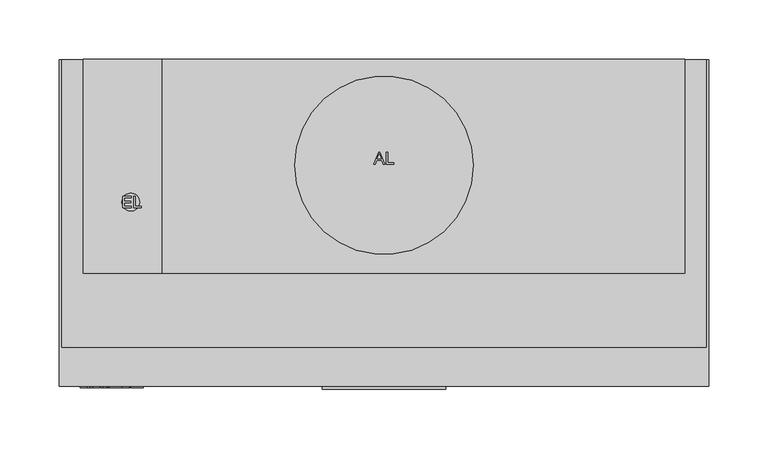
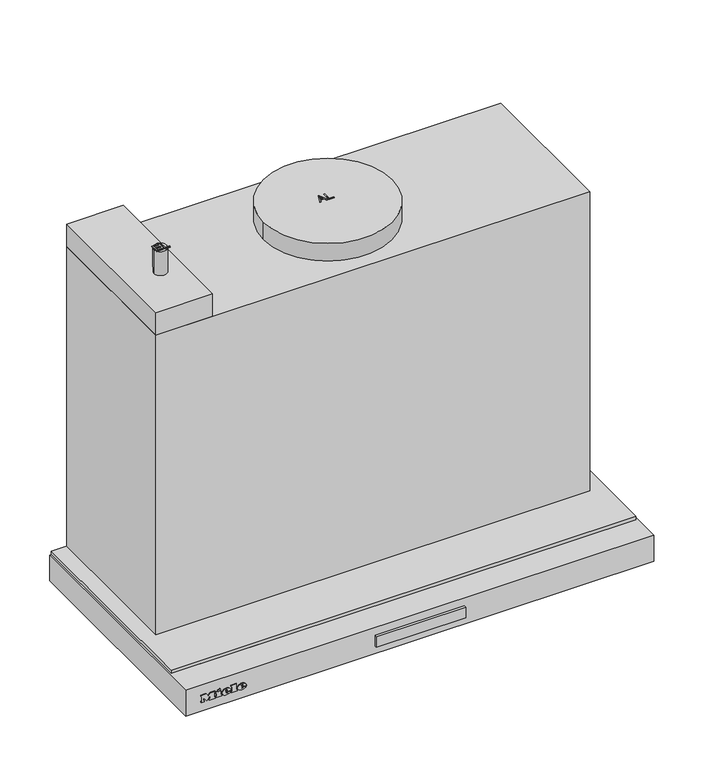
"""IFC4 building model written with IfcOpenShell, lengths in millimetres: proxy geometry, 11862880_CH_DAS2520_EDST : 28S2520S_CH_11862880_DAS2520_EDST."""

from ifc_helpers import new_model, si_unit, point, frame, frame_2d, origin, origin_with_axes, place, context, project, spatial, polyline, circle_curve, ellipse_curve, trimmed, segment, composite_curve, outline, extrude, faceted_brep, source, transform, mapped, element, save
from ifc_brep_helpers import plane_surface, cylinder_surface, revolved_surface, extruded_surface, advanced_brep


def specialty_equipment_bfe63ad1(model_context):
    return source(origin(), model_context, "Body", "SolidModel", [
        extrude(outline(polyline([(52.0, -275.0), (52.0, -277.3978707), (-52.0, -277.3978707), (-52.0, -275.0), (52.0, -275.0)])), frame((0.0, 0.0, -23.0389651), z_axis=(0.0, 0.0, 1.0), x_axis=(1.0, 0.0, 0.0)), (0.0, 0.0, 1.0), 13.3389155),
        advanced_brep(
        [(-208.4590019, -276.0, -18.7681017), (-208.4590019, -276.0, -17.8894017), (-202.6387019, -276.0, -17.8894017), (-212.7655019, -276.0, -17.8894017), (-210.3730019, -276.0, -20.8300017), (-202.7866019, -276.0, -18.7681017), (-205.4140019, -276.0, -18.7681017), (-207.4846019, -276.0, -19.7425017), (-208.4590019, -276.0, -16.7758017), (-208.4590019, -276.0, -15.8275017), (-206.9713019, -276.0, -15.8275017), (-206.9713019, -276.0, -16.7758017), (-208.4590019, -275.0, -18.7681017), (-207.4846019, -275.0, -19.7425017), (-205.4140019, -275.0, -18.7681017), (-202.7866019, -275.0, -18.7681017), (-210.3730019, -275.0, -20.8300017), (-212.7655019, -275.0, -17.8894017), (-202.6387019, -275.0, -17.8894017), (-208.4590019, -275.0, -17.8894017), (-208.4590019, -275.0, -16.7758017), (-206.9713019, -275.0, -16.7758017), (-206.9713019, -275.0, -15.8275017), (-208.4590019, -275.0, -15.8275017)],
        [
            (0, 1),
            (1, 2),
            (2, 3, ellipse_curve(frame((-207.7021019, -276.0, -17.8894017), z_axis=(0.0, -1.0, 0.0), x_axis=(-1.0, 0.0, 0.0)), 5.0634, 4.1847)),
            (3, 4, circle_curve(frame((-209.3985544, -276.0, -17.5936017), z_axis=(0.0, -1.0, 0.0), x_axis=(0.0, 0.0, -1.0)), 3.3799161)),
            (4, 5, circle_curve(frame((-207.8034638, -276.0, -15.2968017), z_axis=(0.0, -1.0, 0.0), x_axis=(0.0, 0.0, -1.0)), 6.1007236)),
            (5, 6),
            (6, 7, circle_curve(frame((-207.0593254, -276.0, -17.9590017), z_axis=(0.0, 1.0, 0.0), x_axis=(0.0, 0.0, -1.0)), 1.8335027)),
            (7, 0, circle_curve(frame((-207.4846019, -276.0, -18.7681017), z_axis=(0.0, 1.0, 0.0), x_axis=(0.0, 0.0, -1.0)), 0.9744)),
            (8, 9),
            (9, 10, circle_curve(frame((-207.7151519, -276.0, -15.8275017), z_axis=(0.0, 1.0, 0.0), x_axis=(0.0, 0.0, -1.0)), 0.74385)),
            (10, 11),
            (11, 8),
            (12, 13, circle_curve(frame((-207.4846019, -275.0, -18.7681017), z_axis=(0.0, -1.0, 0.0), x_axis=(0.0, 0.0, -1.0)), 0.9744)),
            (13, 14, circle_curve(frame((-207.0593254, -275.0, -17.9590017), z_axis=(0.0, -1.0, 0.0), x_axis=(0.0, 0.0, -1.0)), 1.8335027)),
            (14, 15),
            (15, 16, circle_curve(frame((-207.8034638, -275.0, -15.2968017), z_axis=(0.0, 1.0, 0.0), x_axis=(0.0, 0.0, -1.0)), 6.1007236)),
            (16, 17, circle_curve(frame((-209.3985544, -275.0, -17.5936017), z_axis=(0.0, 1.0, 0.0), x_axis=(0.0, 0.0, -1.0)), 3.3799161)),
            (17, 18, ellipse_curve(frame((-207.7021019, -275.0, -17.8894017), z_axis=(0.0, 1.0, 0.0), x_axis=(-1.0, 0.0, 0.0)), 5.0634, 4.1847)),
            (18, 19),
            (19, 12),
            (20, 21),
            (21, 22),
            (22, 23, circle_curve(frame((-207.7151519, -275.0, -15.8275017), z_axis=(0.0, -1.0, 0.0), x_axis=(0.0, 0.0, -1.0)), 0.74385)),
            (23, 20),
            (0, 12),
            (19, 1),
            (18, 2),
            (5, 15),
            (14, 6),
            (17, 3),
            (13, 7),
            (16, 4),
            (8, 20),
            (23, 9),
            (22, 10),
            (21, 11),
        ],
        [
            plane_surface(frame((-208.4590019, -276.0, -17.8894017), z_axis=(0.0, -1.0, 0.0), x_axis=(0.0, 0.0, 1.0))),
            plane_surface(frame((-208.4590019, -275.0, -17.8894017), z_axis=(0.0, 1.0, 0.0), x_axis=(0.0, 0.0, -1.0))),
            plane_surface(frame((-208.4590019, -276.0, -18.7681017), z_axis=(1.0, 0.0, 0.0), x_axis=(0.0, 1.0, 0.0))),
            plane_surface(frame((-208.4590019, -276.0, -17.8894017), z_axis=(0.0, 0.0, -1.0), x_axis=(0.0, 1.0, 0.0))),
            plane_surface(frame((-202.7866019, -276.0, -18.7681017), z_axis=(0.0, 0.0, 1.0), x_axis=(0.0, 1.0, 0.0))),
            extruded_surface(trimmed(ellipse_curve(frame((-207.7021019, -274.0, -17.8894017), z_axis=(0.0, -1.0, 0.0), x_axis=(-1.0, 0.0, 0.0)), 5.0634, 4.1847), [point((-202.6387019, -274.0, -17.8894017))], [point((-212.7655019, -274.0, -17.8894017))], True, "CARTESIAN"), (0.0, -1.0, 0.0), 1.0),
            revolved_surface(polyline([(-207.0593254, -275.0, -19.792504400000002), (-207.0593254, -276.0, -19.792504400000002)]), (-207.0593254, -275.0, -17.9590017), (0.0, 1.0, 0.0)),
            revolved_surface(polyline([(-207.4846019, -275.0, -19.7425017), (-207.4846019, -276.0, -19.7425017)]), (-207.4846019, -275.0, -18.7681017), (0.0, 1.0, 0.0)),
            cylinder_surface(frame((-209.3985544, -275.0, -17.5936017), z_axis=(0.0, -1.0, 0.0), x_axis=(0.0, 0.0, -1.0)), 3.3799161),
            cylinder_surface(frame((-207.8034638, -275.0, -15.2968017), z_axis=(0.0, -1.0, 0.0), x_axis=(0.0, 0.0, -1.0)), 6.1007236),
            plane_surface(frame((-208.4590019, -276.0, -16.7758017), z_axis=(1.0, 0.0, 0.0), x_axis=(0.0, 1.0, 0.0))),
            revolved_surface(polyline([(-207.7151519, -275.0, -16.571351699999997), (-207.7151519, -276.0, -16.571351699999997)]), (-207.7151519, -275.0, -15.8275017), (0.0, 1.0, 0.0)),
            plane_surface(frame((-206.9713019, -276.0, -15.8275017), z_axis=(-1.0, 0.0, 0.0), x_axis=(0.0, 1.0, 0.0))),
            plane_surface(frame((-206.9713019, -276.0, -16.7758017), z_axis=(0.0, 0.0, 1.0), x_axis=(0.0, 1.0, 0.0))),
        ],
        [
            (0, [[1, 2, 3, 4, 5, 6, 7, 8], [9, 10, 11, 12]]),
            (1, [[13, 14, 15, 16, 17, 18, 19, 20], [21, 22, 23, 24]]),
            (2, [[-1, 25, -20, 26]]),
            (3, [[-2, -26, -19, 27]]),
            (4, [[-6, 28, -15, 29]]),
            (5, [[-3, -27, -18, 30]]),
            (6, [[-7, -29, -14, 31]]),
            (7, [[-8, -31, -13, -25]]),
            (8, [[-4, -30, -17, 32]]),
            (9, [[-5, -32, -16, -28]]),
            (10, [[-9, 33, -24, 34]]),
            (11, [[-10, -34, -23, 35]]),
            (12, [[-11, -35, -22, 36]]),
            (13, [[-12, -36, -21, -33]]),
        ],
    ),
        advanced_brep(
        [(-226.6159019, -276.0, -18.7681017), (-226.6159019, -276.0, -17.8894017), (-220.7956019, -276.0, -17.8894017), (-230.9224019, -276.0, -17.8894017), (-228.5299019, -276.0, -20.8300017), (-220.9435019, -276.0, -18.7681017), (-223.5709019, -276.0, -18.7681017), (-225.6415019, -276.0, -19.7425017), (-226.6159019, -276.0, -16.7758017), (-226.6159019, -276.0, -15.8275017), (-225.1282019, -276.0, -15.8275017), (-225.1282019, -276.0, -16.7758017), (-226.6159019, -275.0, -18.7681017), (-225.6415019, -275.0, -19.7425017), (-223.5709019, -275.0, -18.7681017), (-220.9435019, -275.0, -18.7681017), (-228.5299019, -275.0, -20.8300017), (-230.9224019, -275.0, -17.8894017), (-220.7956019, -275.0, -17.8894017), (-226.6159019, -275.0, -17.8894017), (-226.6159019, -275.0, -16.7758017), (-225.1282019, -275.0, -16.7758017), (-225.1282019, -275.0, -15.8275017), (-226.6159019, -275.0, -15.8275017)],
        [
            (0, 1),
            (1, 2),
            (2, 3, ellipse_curve(frame((-225.8590019, -276.0, -17.8894017), z_axis=(0.0, -1.0, 0.0), x_axis=(-1.0, 0.0, 0.0)), 5.0634, 4.1847)),
            (3, 4, circle_curve(frame((-227.5554544, -276.0, -17.5936017), z_axis=(0.0, -1.0, 0.0), x_axis=(0.0, 0.0, -1.0)), 3.3799161)),
            (4, 5, circle_curve(frame((-225.9603638, -276.0, -15.2968017), z_axis=(0.0, -1.0, 0.0), x_axis=(0.0, 0.0, -1.0)), 6.1007236)),
            (5, 6),
            (6, 7, circle_curve(frame((-225.2162254, -276.0, -17.9590017), z_axis=(0.0, 1.0, 0.0), x_axis=(0.0, 0.0, -1.0)), 1.8335027)),
            (7, 0, circle_curve(frame((-225.6415019, -276.0, -18.7681017), z_axis=(0.0, 1.0, 0.0), x_axis=(0.0, 0.0, -1.0)), 0.9744)),
            (8, 9),
            (9, 10, circle_curve(frame((-225.8720519, -276.0, -15.8275017), z_axis=(0.0, 1.0, 0.0), x_axis=(0.0, 0.0, -1.0)), 0.74385)),
            (10, 11),
            (11, 8),
            (12, 13, circle_curve(frame((-225.6415019, -275.0, -18.7681017), z_axis=(0.0, -1.0, 0.0), x_axis=(0.0, 0.0, -1.0)), 0.9744)),
            (13, 14, circle_curve(frame((-225.2162254, -275.0, -17.9590017), z_axis=(0.0, -1.0, 0.0), x_axis=(0.0, 0.0, -1.0)), 1.8335027)),
            (14, 15),
            (15, 16, circle_curve(frame((-225.9603638, -275.0, -15.2968017), z_axis=(0.0, 1.0, 0.0), x_axis=(0.0, 0.0, -1.0)), 6.1007236)),
            (16, 17, circle_curve(frame((-227.5554544, -275.0, -17.5936017), z_axis=(0.0, 1.0, 0.0), x_axis=(0.0, 0.0, -1.0)), 3.3799161)),
            (17, 18, ellipse_curve(frame((-225.8590019, -275.0, -17.8894017), z_axis=(0.0, 1.0, 0.0), x_axis=(-1.0, 0.0, 0.0)), 5.0634, 4.1847)),
            (18, 19),
            (19, 12),
            (20, 21),
            (21, 22),
            (22, 23, circle_curve(frame((-225.8720519, -275.0, -15.8275017), z_axis=(0.0, -1.0, 0.0), x_axis=(0.0, 0.0, -1.0)), 0.74385)),
            (23, 20),
            (0, 12),
            (19, 1),
            (18, 2),
            (5, 15),
            (14, 6),
            (17, 3),
            (13, 7),
            (16, 4),
            (8, 20),
            (23, 9),
            (22, 10),
            (21, 11),
        ],
        [
            plane_surface(frame((-226.6159019, -276.0, -17.8894017), z_axis=(0.0, -1.0, 0.0), x_axis=(0.0, 0.0, 1.0))),
            plane_surface(frame((-226.6159019, -275.0, -17.8894017), z_axis=(0.0, 1.0, 0.0), x_axis=(0.0, 0.0, -1.0))),
            plane_surface(frame((-226.6159019, -276.0, -18.7681017), z_axis=(1.0, 0.0, 0.0), x_axis=(0.0, 1.0, 0.0))),
            plane_surface(frame((-226.6159019, -276.0, -17.8894017), z_axis=(0.0, 0.0, -1.0), x_axis=(0.0, 1.0, 0.0))),
            plane_surface(frame((-220.9435019, -276.0, -18.7681017), z_axis=(0.0, 0.0, 1.0), x_axis=(0.0, 1.0, 0.0))),
            extruded_surface(trimmed(ellipse_curve(frame((-225.8590019, -274.0, -17.8894017), z_axis=(0.0, -1.0, 0.0), x_axis=(-1.0, 0.0, 0.0)), 5.0634, 4.1847), [point((-220.7956019, -274.0, -17.8894017))], [point((-230.9224019, -274.0, -17.8894017))], True, "CARTESIAN"), (0.0, -1.0, 0.0), 1.0),
            revolved_surface(polyline([(-225.2162254, -275.0, -19.792504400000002), (-225.2162254, -276.0, -19.792504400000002)]), (-225.2162254, -275.0, -17.9590017), (0.0, 1.0, 0.0)),
            revolved_surface(polyline([(-225.6415019, -275.0, -19.7425017), (-225.6415019, -276.0, -19.7425017)]), (-225.6415019, -275.0, -18.7681017), (0.0, 1.0, 0.0)),
            cylinder_surface(frame((-227.5554544, -275.0, -17.5936017), z_axis=(0.0, -1.0, 0.0), x_axis=(0.0, 0.0, -1.0)), 3.3799161),
            cylinder_surface(frame((-225.9603638, -275.0, -15.2968017), z_axis=(0.0, -1.0, 0.0), x_axis=(0.0, 0.0, -1.0)), 6.1007236),
            plane_surface(frame((-226.6159019, -276.0, -16.7758017), z_axis=(1.0, 0.0, 0.0), x_axis=(0.0, 1.0, 0.0))),
            revolved_surface(polyline([(-225.8720519, -275.0, -16.571351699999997), (-225.8720519, -276.0, -16.571351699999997)]), (-225.8720519, -275.0, -15.8275017), (0.0, 1.0, 0.0)),
            plane_surface(frame((-225.1282019, -276.0, -15.8275017), z_axis=(-1.0, 0.0, 0.0), x_axis=(0.0, 1.0, 0.0))),
            plane_surface(frame((-225.1282019, -276.0, -16.7758017), z_axis=(0.0, 0.0, 1.0), x_axis=(0.0, 1.0, 0.0))),
        ],
        [
            (0, [[1, 2, 3, 4, 5, 6, 7, 8], [9, 10, 11, 12]]),
            (1, [[13, 14, 15, 16, 17, 18, 19, 20], [21, 22, 23, 24]]),
            (2, [[-1, 25, -20, 26]]),
            (3, [[-2, -26, -19, 27]]),
            (4, [[-6, 28, -15, 29]]),
            (5, [[-3, -27, -18, 30]]),
            (6, [[-7, -29, -14, 31]]),
            (7, [[-8, -31, -13, -25]]),
            (8, [[-4, -30, -17, 32]]),
            (9, [[-5, -32, -16, -28]]),
            (10, [[-9, 33, -24, 34]]),
            (11, [[-10, -34, -23, 35]]),
            (12, [[-11, -35, -22, 36]]),
            (13, [[-12, -36, -21, -33]]),
        ],
    ),
        extrude(outline(polyline([(-12.6433017, -236.1250019), (-14.0527017, -235.4638019), (-12.6781017, -232.5145019), (-11.2687017, -233.1670019), (-12.6433017, -236.1250019)])), frame((0.0, -276.0, 0.0), z_axis=(0.0, 1.0, 0.0), x_axis=(0.0, 0.0, 1.0)), (0.0, 0.0, 1.0), 1.0),
        extrude(outline(polyline([(-14.2441017, -238.2739019), (-15.8014017, -238.2739019), (-15.8014017, -237.2386019), (-19.3684017, -237.2386019), (-19.3684017, -238.2739019), (-20.8300017, -238.2739019), (-20.8300017, -231.4096019), (-19.3684017, -231.4096019), (-19.3684017, -232.4188019), (-14.2441017, -232.4188019), (-14.2441017, -238.2739019)])), frame((0.0, -276.0, 0.0), z_axis=(0.0, 1.0, 0.0), x_axis=(0.0, 0.0, 1.0)), (0.0, 0.0, 1.0), 1.0),
        extrude(outline(polyline([(-13.5481017, -220.3084019), (-13.5481017, -219.2644019), (-19.3684017, -219.2644019), (-19.3684017, -220.3084019), (-20.8300017, -220.3084019), (-20.8300017, -213.2527019), (-19.3684017, -213.2527019), (-19.3684017, -214.3228019), (-12.1300017, -214.3228019), (-12.1300017, -220.3084019), (-13.5481017, -220.3084019)])), frame((0.0, -276.0, 0.0), z_axis=(0.0, 1.0, 0.0), x_axis=(0.0, 0.0, 1.0)), (0.0, 0.0, 1.0), 1.0),
        extrude(outline(polyline([(-13.5481017, -255.6130019), (-13.5481017, -254.5603019), (-19.3684017, -254.5603019), (-19.3684017, -255.6130019), (-20.8300017, -255.6130019), (-20.8300017, -251.7850019), (-19.3684017, -251.7850019), (-19.3684017, -252.8290019), (-15.6719769, -252.8290019), (-20.8300017, -248.9401019), (-15.5772794, -245.0338019), (-19.3684017, -245.0338019), (-19.3684017, -246.1039019), (-20.8300017, -246.1039019), (-20.8300017, -239.1613019), (-19.3684017, -239.1613019), (-19.3684017, -240.2662019), (-13.5481017, -240.2662019), (-13.5481017, -239.1613019), (-12.1300017, -239.1613019), (-12.1300017, -244.4596019), (-15.3925017, -247.0000019), (-12.1300017, -249.5491019), (-12.1300017, -255.6130019), (-13.5481017, -255.6130019)])), frame((0.0, -276.0, 0.0), z_axis=(0.0, 1.0, 0.0), x_axis=(0.0, 0.0, 1.0)), (0.0, 0.0, 1.0), 1.0),
        extrude(outline(polyline([(253.0, -180.0), (-253.0, -180.0), (-253.0, 0.0), (253.0, 0.0), (253.0, -180.0)])), frame((0.0, 0.0, 4.0), z_axis=(0.0, 0.0, 1.0), x_axis=(1.0, 0.0, 0.0)), (0.0, 0.0, 1.0), 369.0),
        extrude(outline(composite_curve([segment(trimmed(circle_curve(frame_2d((0.0, -89.0)), 75.0), [point((-75.0, -89.0))], [point((75.0, -89.0))], False, "CARTESIAN"), True, "CONTINUOUS"), segment(trimmed(circle_curve(frame_2d((0.0, -89.0)), 75.0), [point((75.0, -89.0))], [point((-75.0, -89.0))], False, "CARTESIAN"), True, "CONTINUOUS")], self_intersect=False)), frame((0.0, 0.0, 373.0), z_axis=(0.0, 0.0, 1.0), x_axis=(1.0, 0.0, 0.0)), (0.0, 0.0, 1.0), 22.0),
        extrude(outline(polyline([(-253.0, -180.0), (-253.0, 0.0), (-187.0, 0.0), (-187.0, -180.0), (-253.0, -180.0)])), frame((0.0, 0.0, 373.0), z_axis=(0.0, 0.0, 1.0), x_axis=(1.0, 0.0, 0.0)), (0.0, 0.0, 1.0), 28.0),
        extrude(outline(polyline([(-8.5446725, -87.975609), (-4.5347587, -77.929978), (-3.4654484, -77.929978), (0.5420128, -87.975609), (-0.7848149, -87.975609), (-1.9326067, -84.8363493), (-6.0725055, -84.8363493), (-7.2202973, -87.975609), (-8.5446725, -87.975609)]), holes=[polyline([(-5.6114267, -83.5806455), (-2.391233, -83.5806455), (-3.2986752, -81.110931), (-4.0025561, -79.1856819), (-4.6279555, -80.8951069), (-5.6114267, -83.5806455)])]), frame((0.0, 0.0, 395.0), z_axis=(0.0, 0.0, 1.0), x_axis=(1.0, 0.0, 0.0)), (0.0, 0.0, 1.0), 1.0),
        extrude(outline(polyline([(1.8835558, -87.975609), (1.8835558, -77.929978), (3.1392597, -77.929978), (3.1392597, -86.7199052), (8.1620752, -86.7199052), (8.1620752, -87.975609), (1.8835558, -87.975609)])), frame((0.0, 0.0, 395.0), z_axis=(0.0, 0.0, 1.0), x_axis=(1.0, 0.0, 0.0)), (0.0, 0.0, 1.0), 1.0),
        extrude(outline(polyline([(271.0, 0.0), (271.0, -242.0), (-271.0, -242.0), (-271.0, 0.0), (271.0, 0.0)])), origin_with_axes(), (0.0, 0.0, 1.0), 4.0),
        extrude(outline(polyline([(120.0, -19.25), (120.0, -31.75), (-120.0, -31.75), (-120.0, -19.25), (120.0, -19.25)])), frame((0.0, 0.0, -23.0), z_axis=(0.0, 0.0, 1.0), x_axis=(1.0, 0.0, 0.0)), (0.0, 0.0, 1.0), 1.785426),
        extrude(outline(polyline([(156.0813184, -268.0), (156.0813184, -246.0), (224.0, -246.0), (224.0, -268.0), (156.0813184, -268.0)])), frame((0.0, 0.0, -33.3019181), z_axis=(0.0, 0.0, 1.0), x_axis=(1.0, 0.0, 0.0)), (0.0, 0.0, 1.0), 1.3019181),
        extrude(outline(polyline([(-224.0, -268.0), (-224.0, -246.0), (-156.0, -246.0), (-156.0, -268.0), (-224.0, -268.0)])), frame((0.0, 0.0, -33.3019181), z_axis=(0.0, 0.0, 1.0), x_axis=(1.0, 0.0, 0.0)), (0.0, 0.0, 1.0), 1.3019181),
        extrude(outline(composite_curve([segment(trimmed(circle_curve(frame_2d((-213.0, -120.0)), 7.5), [point((-205.5, -120.0))], [point((-220.5, -120.0))], False, "CARTESIAN"), True, "CONTINUOUS"), segment(trimmed(circle_curve(frame_2d((-213.0, -120.0)), 7.5), [point((-220.5, -120.0))], [point((-205.5, -120.0))], False, "CARTESIAN"), True, "CONTINUOUS")], self_intersect=False)), frame((0.0, 0.0, 401.0), z_axis=(0.0, 0.0, 1.0), x_axis=(1.0, 0.0, 0.0)), (0.0, 0.0, 1.0), 30.0),
        extrude(outline(polyline([(-210.640443, -124.9184735), (-210.640443, -114.8728425), (-209.3847391, -114.8728425), (-209.3847391, -123.6627696), (-204.3619236, -123.6627696), (-204.3619236, -124.9184735), (-210.640443, -124.9184735)])), frame((0.0, 0.0, 431.0), z_axis=(0.0, 0.0, 1.0), x_axis=(1.0, 0.0, 0.0)), (0.0, 0.0, 1.0), 1.0),
        extrude(outline(polyline([(-219.9012591, -124.9184735), (-219.9012591, -114.8728425), (-212.6809618, -114.8728425), (-212.6809618, -116.1285464), (-218.6455552, -116.1285464), (-218.6455552, -119.1108431), (-212.9948878, -119.1108431), (-212.9948878, -120.366547), (-218.6455552, -120.366547), (-218.6455552, -123.6627696), (-212.5239988, -123.6627696), (-212.5239988, -124.9184735), (-219.9012591, -124.9184735)])), frame((0.0, 0.0, 431.0), z_axis=(0.0, 0.0, 1.0), x_axis=(1.0, 0.0, 0.0)), (0.0, 0.0, 1.0), 1.0),
        extrude(outline(polyline([(-273.0, 0.0), (-238.0, 0.0), (-238.0, -242.0), (238.0, -242.0), (238.0, 0.0), (273.0, 0.0), (273.0, -275.0), (-273.0, -275.0), (-273.0, 0.0)])), frame((0.0, 0.0, -32.0), z_axis=(0.0, 0.0, 1.0), x_axis=(1.0, 0.0, 0.0)), (0.0, 0.0, 1.0), 32.0),
        faceted_brep([(-126.0, -39.0, -24.0), (-126.0, -39.0, 0.0), (126.0, -39.0, 0.0), (126.0, -39.0, -24.0), (-126.0, -12.0, -24.0), (-126.0, -12.0, 0.0), (126.0, -12.0, -24.0), (126.0, -12.0, 0.0), (-238.0, -242.0, 0.0), (-238.0, 0.0, 0.0), (-238.0, 0.0, -24.0), (-238.0, -52.0, -24.0), (-238.0, -52.0, -25.0), (-238.0, -242.0, -25.0), (238.0, -52.0, -25.0), (238.0, -242.0, -25.0), (238.0, -52.0, -24.0), (238.0, 0.0, -24.0), (238.0, 0.0, 0.0), (238.0, -242.0, 0.0)], [[[0, 1, 2, 3]], [[4, 5, 1, 0]], [[6, 7, 5, 4]], [[8, 9, 10, 11, 12, 13]], [[13, 12, 14, 15]], [[16, 11, 10, 17], [6, 4, 0, 3]], [[11, 16, 14, 12]], [[18, 9, 8, 19], [5, 7, 2, 1]], [[9, 18, 17, 10]], [[19, 8, 13, 15]], [[18, 19, 15, 14, 16, 17]], [[7, 6, 3, 2]]]),
        extrude(outline(polyline([(126.0, -12.0), (126.0, -39.0), (-126.0, -39.0), (-126.0, -12.0), (126.0, -12.0)]), holes=[polyline([(120.0, -19.25), (-120.0, -19.25), (-120.0, -31.75), (120.0, -31.75), (120.0, -19.25)])]), frame((0.0, 0.0, -21.214574), z_axis=(0.0, 0.0, 1.0), x_axis=(1.0, 0.0, 0.0)), (0.0, 0.0, 1.0), 21.214574),
    ])


if __name__ == "__main__":
    model = new_model("IFC4")
    model_context = context("Model", 3, world=origin())
    ifc_project = project(units=[si_unit("LENGTHUNIT", "METRE", prefix="MILLI")], contexts=[model_context])
    site = spatial("IfcSite", under=ifc_project)
    building = spatial("IfcBuilding", under=site)
    placement = place(None, origin())
    specialty_equipment_shape = specialty_equipment_bfe63ad1(model_context)
    element("IfcBuildingElementProxy", 1, Name="11862880_CH_DAS2520_EDST : 28S2520S_CH_11862880_DAS2520_EDST", ObjectType="11862880_CH_DAS2520_EDST : 28S2520S_CH_11862880_DAS2520_EDST", at=placement, inside=building, context=model_context, shape_type="MappedRepresentation", body=[
        mapped(specialty_equipment_shape, transform((0.0, 0.0, 0.0), x_axis=(1.0, 0.0, 0.0), y_axis=(0.0, 1.0, 0.0), z_axis=(0.0, 0.0, 1.0))),
    ])
    save(model, "model.ifc")
